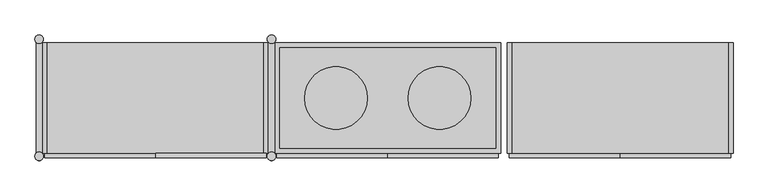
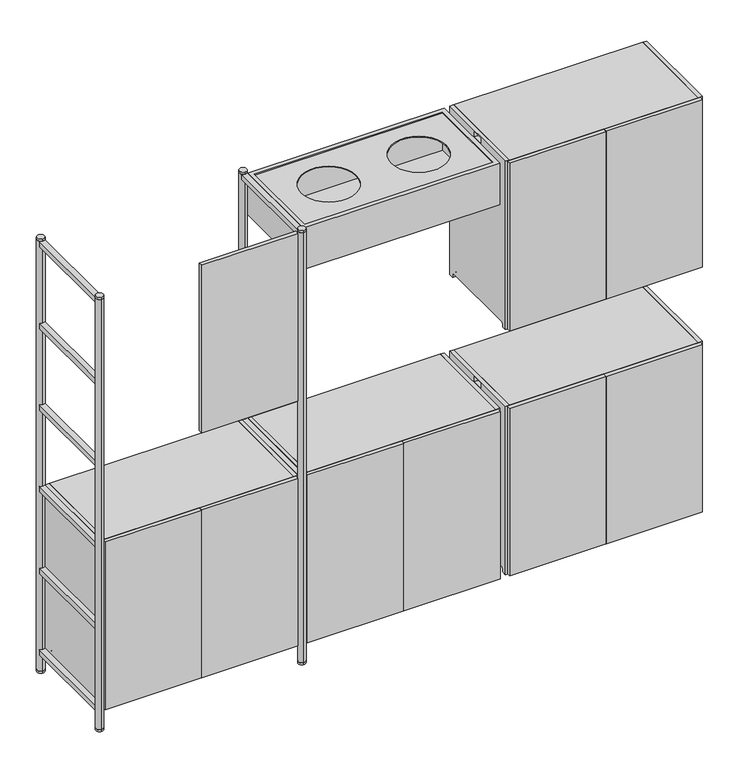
"""IFC4 building model written with IfcOpenShell, lengths in millimetres: furniture geometry, MAKR_TEMPLATE_900mmL : MAKR_TEMPLATE_900mmL."""

from ifc_helpers import new_model, si_unit, point, frame, frame_2d, origin, origin_with_axes, place, context, project, spatial, polyline, circle_curve, trimmed, segment, composite_curve, outline, extrude, source, transform, mapped, element, save
from ifc_brep_helpers import plane_surface, revolved_surface, advanced_brep


def furniture_bd537a38(model_context):
    return source(origin(), model_context, "Body", "SolidModel", [
        extrude(outline(polyline([(-1409.0, -221.4782814), (-1409.0, -239.4782814), (-1849.0, -239.4782814), (-1849.0, -221.4782814), (-1409.0, -221.4782814)])), frame((0.0, 0.0, 1276.0), z_axis=(0.0, 0.0, 1.0), x_axis=(1.0, 0.0, 0.0)), (0.0, 0.0, 1.0), 811.0),
        extrude(outline(composite_curve([segment(polyline([(-221.4782814, 904.0), (218.5217186, 904.0), (218.5217186, 89.0), (196.5217186, 89.0), (196.5217186, 106.0)]), True, "CONTINUOUS"), segment(trimmed(circle_curve(frame_2d((192.5217186, 106.0)), 4.0), [point((196.5217186, 106.0))], [point((192.5217186, 110.0))], True, "CARTESIAN"), True, "CONTINUOUS"), segment(polyline([(192.5217186, 110.0), (-195.4782814, 110.0)]), True, "CONTINUOUS"), segment(trimmed(circle_curve(frame_2d((-195.4782814, 106.0)), 4.0), [point((-195.4782814, 110.0))], [point((-199.4782814, 106.0))], True, "CARTESIAN"), True, "CONTINUOUS"), segment(polyline([(-199.4782814, 106.0), (-199.4782814, 89.0), (-221.4782814, 89.0), (-221.4782814, 904.0)]), True, "CONTINUOUS")], self_intersect=False), holes=[polyline([(-27.4782814, 899.0), (-27.4782814, 874.0), (24.5217186, 874.0), (24.5217186, 899.0), (-27.4782814, 899.0)])]), frame((-2300.0, 0.0, 0.0), z_axis=(1.0, 0.0, 0.0), x_axis=(0.0, 1.0, 0.0)), (0.0, 0.0, 1.0), 18.0),
        advanced_brep(
        [(-1418.0, 218.5217186, 107.0), (-2282.0, 218.5217186, 107.0), (-2282.0, 196.394702, 107.0), (-2276.1019215, 196.394702, 107.0), (-2276.1019215, -199.3512647, 107.0), (-2282.0, -199.3512647, 107.0), (-2282.0, -221.4782814, 107.0), (-1418.0, -221.4782814, 107.0), (-1418.0, 218.5217186, 89.0), (-1418.0, -221.4782814, 89.0), (-2282.0, -221.4782814, 89.0), (-2282.0, -199.4782814, 89.0), (-2276.1019215, -199.4782814, 89.0), (-2276.1019215, 196.5217186, 89.0), (-2282.0, 196.5217186, 89.0), (-2282.0, 218.5217186, 89.0), (-2282.0, 196.5217186, 106.0), (-2282.0, -199.4782814, 106.0), (-2276.1019215, 196.5217186, 106.0), (-2276.1019215, -199.4782814, 106.0)],
        [
            (0, 1),
            (1, 2),
            (2, 3),
            (3, 4),
            (4, 5),
            (5, 6),
            (6, 7),
            (7, 0),
            (8, 9),
            (9, 10),
            (10, 11),
            (11, 12),
            (12, 13),
            (13, 14),
            (14, 15),
            (15, 8),
            (0, 8),
            (15, 1),
            (14, 16),
            (16, 2, circle_curve(frame((-2282.0, 192.5217186, 106.0), z_axis=(1.0, 0.0, 0.0), x_axis=(0.0, 1.0, 0.0)), 4.0)),
            (10, 6),
            (5, 17, circle_curve(frame((-2282.0, -195.4782814, 106.0), z_axis=(1.0, 0.0, 0.0), x_axis=(0.0, 1.0, 0.0)), 4.0)),
            (17, 11),
            (9, 7),
            (18, 13),
            (12, 19),
            (19, 4, circle_curve(frame((-2276.1019215, -195.4782814, 106.0), z_axis=(-1.0, 0.0, 0.0), x_axis=(0.0, 1.0, 0.0)), 4.0)),
            (3, 18, circle_curve(frame((-2276.1019215, 192.5217186, 106.0), z_axis=(-1.0, 0.0, 0.0), x_axis=(0.0, 1.0, 0.0)), 4.0)),
            (19, 17),
            (18, 16),
        ],
        [
            plane_surface(frame((-2282.0, 218.5217186, 107.0), z_axis=(0.0, 0.0, 1.0), x_axis=(-1.0, 0.0, 0.0))),
            plane_surface(frame((-2282.0, 218.5217186, 89.0), z_axis=(0.0, 0.0, -1.0), x_axis=(1.0, 0.0, 0.0))),
            plane_surface(frame((-1418.0, 218.5217186, 107.0), z_axis=(0.0, 1.0, 0.0), x_axis=(0.0, 0.0, -1.0))),
            plane_surface(frame((-2282.0, 218.5217186, 107.0), z_axis=(-1.0, 0.0, 0.0), x_axis=(0.0, 0.0, -1.0))),
            plane_surface(frame((-2282.0, -221.4782814, 107.0), z_axis=(0.0, -1.0, 0.0), x_axis=(0.0, 0.0, -1.0))),
            plane_surface(frame((-1418.0, -221.4782814, 107.0), z_axis=(1.0, 0.0, 0.0), x_axis=(0.0, 0.0, -1.0))),
            plane_surface(frame((-2276.1019215, -191.4782814, 106.0), z_axis=(-1.0, 0.0, 0.0), x_axis=(0.0, 0.0, 1.0))),
            revolved_surface(polyline([(-2276.1019215, -191.4782814, 106.0), (-2282.0, -191.4782814, 106.0)]), (-2306.0458228, -195.4782814, 106.0), (1.0, 0.0, 0.0)),
            plane_surface(frame((-2276.1019215, -199.4782814, 106.0), z_axis=(0.0, 1.0, 0.0), x_axis=(-1.0, 0.0, 0.0))),
            plane_surface(frame((-2276.1019215, 196.5217186, 89.0), z_axis=(0.0, -1.0, 0.0), x_axis=(-1.0, 0.0, 0.0))),
            revolved_surface(polyline([(-2276.1019215, 196.5217186, 106.0), (-2282.0, 196.5217186, 106.0)]), (-2306.0458228, 192.5217186, 106.0), (1.0, 0.0, 0.0)),
        ],
        [
            (0, [[1, 2, 3, 4, 5, 6, 7, 8]]),
            (1, [[9, 10, 11, 12, 13, 14, 15, 16]]),
            (2, [[-1, 17, -16, 18]]),
            (3, [[-18, -15, 19, 20, -2]]),
            (3, [[21, -6, 22, 23, -11]]),
            (4, [[-7, -21, -10, 24]]),
            (5, [[-8, -24, -9, -17]]),
            (6, [[25, -13, 26, 27, -4, 28]]),
            (7, [[-27, 29, -22, -5]]),
            (8, [[-26, -12, -23, -29]]),
            (9, [[-25, 30, -19, -14]]),
            (10, [[-28, -3, -20, -30]]),
        ],
    ),
        extrude(outline(composite_curve([segment(polyline([(-221.4782814, 904.0), (218.5217186, 904.0), (218.5217186, 89.0), (196.5217186, 89.0), (196.5217186, 106.0)]), True, "CONTINUOUS"), segment(trimmed(circle_curve(frame_2d((192.5217186, 106.0)), 4.0), [point((196.5217186, 106.0))], [point((192.5217186, 110.0))], True, "CARTESIAN"), True, "CONTINUOUS"), segment(polyline([(192.5217186, 110.0), (-195.4782814, 110.0)]), True, "CONTINUOUS"), segment(trimmed(circle_curve(frame_2d((-195.4782814, 106.0)), 4.0), [point((-195.4782814, 110.0))], [point((-199.4782814, 106.0))], True, "CARTESIAN"), True, "CONTINUOUS"), segment(polyline([(-199.4782814, 106.0), (-199.4782814, 89.0), (-221.4782814, 89.0), (-221.4782814, 904.0)]), True, "CONTINUOUS")], self_intersect=False), holes=[polyline([(-27.4782814, 899.0), (-27.4782814, 874.0), (24.5217186, 874.0), (24.5217186, 899.0), (-27.4782814, 899.0)])]), frame((-1418.0, 0.0, 0.0), z_axis=(1.0, 0.0, 0.0), x_axis=(0.0, 1.0, 0.0)), (0.0, 0.0, 1.0), 18.0),
        extrude(outline(polyline([(-1418.0, 218.5217186), (-1418.0, 200.5217186), (-2282.0, 200.5217186), (-2282.0, 218.5217186), (-1418.0, 218.5217186)])), frame((0.0, 0.0, 107.0), z_axis=(0.0, 0.0, 1.0), x_axis=(1.0, 0.0, 0.0)), (0.0, 0.0, 1.0), 779.0),
        extrude(outline(polyline([(-1418.0, 200.5217186), (-1418.0, -221.4782814), (-2282.0, -221.4782814), (-2282.0, 200.5217186), (-1418.0, 200.5217186)])), frame((0.0, 0.0, 487.5), z_axis=(0.0, 0.0, 1.0), x_axis=(1.0, 0.0, 0.0)), (0.0, 0.0, 1.0), 18.0),
        extrude(outline(polyline([(-1418.0, 218.5217186), (-1418.0, -221.4782814), (-2282.0, -221.4782814), (-2282.0, 218.5217186), (-1418.0, 218.5217186)])), frame((0.0, 0.0, 886.0), z_axis=(0.0, 0.0, 1.0), x_axis=(1.0, 0.0, 0.0)), (0.0, 0.0, 1.0), 18.0),
        extrude(outline(polyline([(-1841.0, 200.5217186), (-1841.0, -221.4782814), (-1859.0, -221.4782814), (-1859.0, 200.5217186), (-1841.0, 200.5217186)])), frame((0.0, 0.0, 107.0), z_axis=(0.0, 0.0, 1.0), x_axis=(1.0, 0.0, 0.0)), (0.0, 0.0, 1.0), 779.0),
        extrude(outline(polyline([(-1409.0, -221.4782814), (-1409.0, -239.4782814), (-1849.0, -239.4782814), (-1849.0, -221.4782814), (-1409.0, -221.4782814)])), frame((0.0, 0.0, 91.0), z_axis=(0.0, 0.0, 1.0), x_axis=(1.0, 0.0, 0.0)), (0.0, 0.0, 1.0), 811.0),
        extrude(outline(polyline([(-2291.0, -221.4782814), (-1851.0, -221.4782814), (-1851.0, -239.4782814), (-2291.0, -239.4782814), (-2291.0, -221.4782814)])), frame((0.0, 0.0, 91.0), z_axis=(0.0, 0.0, 1.0), x_axis=(1.0, 0.0, 0.0)), (0.0, 0.0, 1.0), 811.0),
        extrude(outline(composite_curve([segment(polyline([(-221.4782814, 904.0), (218.5217186, 904.0), (218.5217186, 89.0), (196.5217186, 89.0), (196.5217186, 106.0)]), True, "CONTINUOUS"), segment(trimmed(circle_curve(frame_2d((192.5217186, 106.0)), 4.0), [point((196.5217186, 106.0))], [point((192.5217186, 110.0))], True, "CARTESIAN"), True, "CONTINUOUS"), segment(polyline([(192.5217186, 110.0), (-195.4782814, 110.0)]), True, "CONTINUOUS"), segment(trimmed(circle_curve(frame_2d((-195.4782814, 106.0)), 4.0), [point((-195.4782814, 110.0))], [point((-199.4782814, 106.0))], True, "CARTESIAN"), True, "CONTINUOUS"), segment(polyline([(-199.4782814, 106.0), (-199.4782814, 89.0), (-221.4782814, 89.0), (-221.4782814, 904.0)]), True, "CONTINUOUS")], self_intersect=False), holes=[polyline([(-27.4782814, 899.0), (-27.4782814, 874.0), (24.5217186, 874.0), (24.5217186, 899.0), (-27.4782814, 899.0)])]), frame((-1375.0, 0.0, 0.0), z_axis=(1.0, 0.0, 0.0), x_axis=(0.0, 1.0, 0.0)), (0.0, 0.0, 1.0), 18.0),
        advanced_brep(
        [(-493.0, 218.5217186, 107.0), (-1357.0, 218.5217186, 107.0), (-1357.0, 196.394702, 107.0), (-1351.1019215, 196.394702, 107.0), (-1351.1019215, -199.3512647, 107.0), (-1357.0, -199.3512647, 107.0), (-1357.0, -221.4782814, 107.0), (-493.0, -221.4782814, 107.0), (-493.0, 218.5217186, 89.0), (-493.0, -221.4782814, 89.0), (-1357.0, -221.4782814, 89.0), (-1357.0, -199.4782814, 89.0), (-1351.1019215, -199.4782814, 89.0), (-1351.1019215, 196.5217186, 89.0), (-1357.0, 196.5217186, 89.0), (-1357.0, 218.5217186, 89.0), (-1357.0, 196.5217186, 106.0), (-1357.0, -199.4782814, 106.0), (-1351.1019215, 196.5217186, 106.0), (-1351.1019215, -199.4782814, 106.0)],
        [
            (0, 1),
            (1, 2),
            (2, 3),
            (3, 4),
            (4, 5),
            (5, 6),
            (6, 7),
            (7, 0),
            (8, 9),
            (9, 10),
            (10, 11),
            (11, 12),
            (12, 13),
            (13, 14),
            (14, 15),
            (15, 8),
            (0, 8),
            (15, 1),
            (14, 16),
            (16, 2, circle_curve(frame((-1357.0, 192.5217186, 106.0), z_axis=(1.0, 0.0, 0.0), x_axis=(0.0, 1.0, 0.0)), 4.0)),
            (10, 6),
            (5, 17, circle_curve(frame((-1357.0, -195.4782814, 106.0), z_axis=(1.0, 0.0, 0.0), x_axis=(0.0, 1.0, 0.0)), 4.0)),
            (17, 11),
            (9, 7),
            (18, 13),
            (12, 19),
            (19, 4, circle_curve(frame((-1351.1019215, -195.4782814, 106.0), z_axis=(-1.0, 0.0, 0.0), x_axis=(0.0, 1.0, 0.0)), 4.0)),
            (3, 18, circle_curve(frame((-1351.1019215, 192.5217186, 106.0), z_axis=(-1.0, 0.0, 0.0), x_axis=(0.0, 1.0, 0.0)), 4.0)),
            (19, 17),
            (18, 16),
        ],
        [
            plane_surface(frame((-1357.0, 218.5217186, 107.0), z_axis=(0.0, 0.0, 1.0), x_axis=(-1.0, 0.0, 0.0))),
            plane_surface(frame((-1357.0, 218.5217186, 89.0), z_axis=(0.0, 0.0, -1.0), x_axis=(1.0, 0.0, 0.0))),
            plane_surface(frame((-493.0, 218.5217186, 107.0), z_axis=(0.0, 1.0, 0.0), x_axis=(0.0, 0.0, -1.0))),
            plane_surface(frame((-1357.0, 218.5217186, 107.0), z_axis=(-1.0, 0.0, 0.0), x_axis=(0.0, 0.0, -1.0))),
            plane_surface(frame((-1357.0, -221.4782814, 107.0), z_axis=(0.0, -1.0, 0.0), x_axis=(0.0, 0.0, -1.0))),
            plane_surface(frame((-493.0, -221.4782814, 107.0), z_axis=(1.0, 0.0, 0.0), x_axis=(0.0, 0.0, -1.0))),
            plane_surface(frame((-1351.1019215, -191.4782814, 106.0), z_axis=(-1.0, 0.0, 0.0), x_axis=(0.0, 0.0, 1.0))),
            revolved_surface(polyline([(-1351.1019215, -191.4782814, 106.0), (-1357.0, -191.4782814, 106.0)]), (-1381.0458228, -195.4782814, 106.0), (1.0, 0.0, 0.0)),
            plane_surface(frame((-1351.1019215, -199.4782814, 106.0), z_axis=(0.0, 1.0, 0.0), x_axis=(-1.0, 0.0, 0.0))),
            plane_surface(frame((-1351.1019215, 196.5217186, 89.0), z_axis=(0.0, -1.0, 0.0), x_axis=(-1.0, 0.0, 0.0))),
            revolved_surface(polyline([(-1351.1019215, 196.5217186, 106.0), (-1357.0, 196.5217186, 106.0)]), (-1381.0458228, 192.5217186, 106.0), (1.0, 0.0, 0.0)),
        ],
        [
            (0, [[1, 2, 3, 4, 5, 6, 7, 8]]),
            (1, [[9, 10, 11, 12, 13, 14, 15, 16]]),
            (2, [[-1, 17, -16, 18]]),
            (3, [[-18, -15, 19, 20, -2]]),
            (3, [[21, -6, 22, 23, -11]]),
            (4, [[-7, -21, -10, 24]]),
            (5, [[-8, -24, -9, -17]]),
            (6, [[25, -13, 26, 27, -4, 28]]),
            (7, [[-27, 29, -22, -5]]),
            (8, [[-26, -12, -23, -29]]),
            (9, [[-25, 30, -19, -14]]),
            (10, [[-28, -3, -20, -30]]),
        ],
    ),
        extrude(outline(composite_curve([segment(polyline([(-221.4782814, 904.0), (218.5217186, 904.0), (218.5217186, 89.0), (196.5217186, 89.0), (196.5217186, 106.0)]), True, "CONTINUOUS"), segment(trimmed(circle_curve(frame_2d((192.5217186, 106.0)), 4.0), [point((196.5217186, 106.0))], [point((192.5217186, 110.0))], True, "CARTESIAN"), True, "CONTINUOUS"), segment(polyline([(192.5217186, 110.0), (-195.4782814, 110.0)]), True, "CONTINUOUS"), segment(trimmed(circle_curve(frame_2d((-195.4782814, 106.0)), 4.0), [point((-195.4782814, 110.0))], [point((-199.4782814, 106.0))], True, "CARTESIAN"), True, "CONTINUOUS"), segment(polyline([(-199.4782814, 106.0), (-199.4782814, 89.0), (-221.4782814, 89.0), (-221.4782814, 904.0)]), True, "CONTINUOUS")], self_intersect=False), holes=[polyline([(-27.4782814, 899.0), (-27.4782814, 874.0), (24.5217186, 874.0), (24.5217186, 899.0), (-27.4782814, 899.0)])]), frame((-493.0, 0.0, 0.0), z_axis=(1.0, 0.0, 0.0), x_axis=(0.0, 1.0, 0.0)), (0.0, 0.0, 1.0), 18.0),
        extrude(outline(polyline([(-493.0, 218.5217186), (-493.0, 200.5217186), (-1357.0, 200.5217186), (-1357.0, 218.5217186), (-493.0, 218.5217186)])), frame((0.0, 0.0, 107.0), z_axis=(0.0, 0.0, 1.0), x_axis=(1.0, 0.0, 0.0)), (0.0, 0.0, 1.0), 779.0),
        extrude(outline(polyline([(-493.0, 200.5217186), (-493.0, -221.4782814), (-1357.0, -221.4782814), (-1357.0, 200.5217186), (-493.0, 200.5217186)])), frame((0.0, 0.0, 487.5), z_axis=(0.0, 0.0, 1.0), x_axis=(1.0, 0.0, 0.0)), (0.0, 0.0, 1.0), 18.0),
        extrude(outline(polyline([(-493.0, 218.5217186), (-493.0, -221.4782814), (-1357.0, -221.4782814), (-1357.0, 218.5217186), (-493.0, 218.5217186)])), frame((0.0, 0.0, 886.0), z_axis=(0.0, 0.0, 1.0), x_axis=(1.0, 0.0, 0.0)), (0.0, 0.0, 1.0), 18.0),
        extrude(outline(polyline([(-916.0, 200.5217186), (-916.0, -221.4782814), (-934.0, -221.4782814), (-934.0, 200.5217186), (-916.0, 200.5217186)])), frame((0.0, 0.0, 107.0), z_axis=(0.0, 0.0, 1.0), x_axis=(1.0, 0.0, 0.0)), (0.0, 0.0, 1.0), 779.0),
        extrude(outline(polyline([(-484.0, -221.4782814), (-484.0, -239.4782814), (-924.0, -239.4782814), (-924.0, -221.4782814), (-484.0, -221.4782814)])), frame((0.0, 0.0, 91.0), z_axis=(0.0, 0.0, 1.0), x_axis=(1.0, 0.0, 0.0)), (0.0, 0.0, 1.0), 811.0),
        extrude(outline(polyline([(-1366.0, -221.4782814), (-926.0, -221.4782814), (-926.0, -239.4782814), (-1366.0, -239.4782814), (-1366.0, -221.4782814)])), frame((0.0, 0.0, 91.0), z_axis=(0.0, 0.0, 1.0), x_axis=(1.0, 0.0, 0.0)), (0.0, 0.0, 1.0), 811.0),
        extrude(outline(composite_curve([segment(trimmed(circle_curve(frame_2d((-2312.5, 233.0)), 17.0), [point((-2325.0, 221.4782814))], [point((-2300.0, 221.4782814))], True, "CARTESIAN"), True, "CONTINUOUS"), segment(polyline([(-2300.0, 221.4782814), (-2300.0, -221.4782814)]), True, "CONTINUOUS"), segment(trimmed(circle_curve(frame_2d((-2312.5, -233.0)), 17.0), [point((-2300.0, -221.4782814))], [point((-2325.0, -221.4782814))], True, "CARTESIAN"), True, "CONTINUOUS"), segment(polyline([(-2325.0, -221.4782814), (-2325.0, 221.4782814)]), True, "CONTINUOUS")], self_intersect=False)), frame((0.0, 0.0, 2064.0), z_axis=(0.0, 0.0, 1.0), x_axis=(1.0, 0.0, 0.0)), (0.0, 0.0, 1.0), 25.0),
        extrude(outline(composite_curve([segment(trimmed(circle_curve(frame_2d((-2312.5, 233.0)), 17.0), [point((-2325.0, 221.4782814))], [point((-2300.0, 221.4782814))], True, "CARTESIAN"), True, "CONTINUOUS"), segment(polyline([(-2300.0, 221.4782814), (-2300.0, -221.4782814)]), True, "CONTINUOUS"), segment(trimmed(circle_curve(frame_2d((-2312.5, -233.0)), 17.0), [point((-2300.0, -221.4782814))], [point((-2325.0, -221.4782814))], True, "CARTESIAN"), True, "CONTINUOUS"), segment(polyline([(-2325.0, -221.4782814), (-2325.0, 221.4782814)]), True, "CONTINUOUS")], self_intersect=False)), frame((0.0, 0.0, 1669.0), z_axis=(0.0, 0.0, 1.0), x_axis=(1.0, 0.0, 0.0)), (0.0, 0.0, 1.0), 25.0),
        extrude(outline(composite_curve([segment(trimmed(circle_curve(frame_2d((-2312.5, 233.0)), 17.0), [point((-2325.0, 221.4782814))], [point((-2300.0, 221.4782814))], True, "CARTESIAN"), True, "CONTINUOUS"), segment(polyline([(-2300.0, 221.4782814), (-2300.0, -221.4782814)]), True, "CONTINUOUS"), segment(trimmed(circle_curve(frame_2d((-2312.5, -233.0)), 17.0), [point((-2300.0, -221.4782814))], [point((-2325.0, -221.4782814))], True, "CARTESIAN"), True, "CONTINUOUS"), segment(polyline([(-2325.0, -221.4782814), (-2325.0, 221.4782814)]), True, "CONTINUOUS")], self_intersect=False)), frame((0.0, 0.0, 1274.0), z_axis=(0.0, 0.0, 1.0), x_axis=(1.0, 0.0, 0.0)), (0.0, 0.0, 1.0), 25.0),
        extrude(outline(composite_curve([segment(trimmed(circle_curve(frame_2d((-2312.5, 233.0)), 17.0), [point((-2325.0, 221.4782814))], [point((-2300.0, 221.4782814))], True, "CARTESIAN"), True, "CONTINUOUS"), segment(polyline([(-2300.0, 221.4782814), (-2300.0, -221.4782814)]), True, "CONTINUOUS"), segment(trimmed(circle_curve(frame_2d((-2312.5, -233.0)), 17.0), [point((-2300.0, -221.4782814))], [point((-2325.0, -221.4782814))], True, "CARTESIAN"), True, "CONTINUOUS"), segment(polyline([(-2325.0, -221.4782814), (-2325.0, 221.4782814)]), True, "CONTINUOUS")], self_intersect=False)), frame((0.0, 0.0, 879.0), z_axis=(0.0, 0.0, 1.0), x_axis=(1.0, 0.0, 0.0)), (0.0, 0.0, 1.0), 25.0),
        extrude(outline(composite_curve([segment(trimmed(circle_curve(frame_2d((-2312.5, 233.0)), 17.0), [point((-2325.0, 221.4782814))], [point((-2300.0, 221.4782814))], True, "CARTESIAN"), True, "CONTINUOUS"), segment(polyline([(-2300.0, 221.4782814), (-2300.0, -221.4782814)]), True, "CONTINUOUS"), segment(trimmed(circle_curve(frame_2d((-2312.5, -233.0)), 17.0), [point((-2300.0, -221.4782814))], [point((-2325.0, -221.4782814))], True, "CARTESIAN"), True, "CONTINUOUS"), segment(polyline([(-2325.0, -221.4782814), (-2325.0, 221.4782814)]), True, "CONTINUOUS")], self_intersect=False)), frame((0.0, 0.0, 484.0), z_axis=(0.0, 0.0, 1.0), x_axis=(1.0, 0.0, 0.0)), (0.0, 0.0, 1.0), 25.0),
        extrude(outline(composite_curve([segment(trimmed(circle_curve(frame_2d((-2312.5, 233.0)), 17.0), [point((-2325.0, 221.4782814))], [point((-2300.0, 221.4782814))], True, "CARTESIAN"), True, "CONTINUOUS"), segment(polyline([(-2300.0, 221.4782814), (-2300.0, -221.4782814)]), True, "CONTINUOUS"), segment(trimmed(circle_curve(frame_2d((-2312.5, -233.0)), 17.0), [point((-2300.0, -221.4782814))], [point((-2325.0, -221.4782814))], True, "CARTESIAN"), True, "CONTINUOUS"), segment(polyline([(-2325.0, -221.4782814), (-2325.0, 221.4782814)]), True, "CONTINUOUS")], self_intersect=False)), frame((0.0, 0.0, 89.0), z_axis=(0.0, 0.0, 1.0), x_axis=(1.0, 0.0, 0.0)), (0.0, 0.0, 1.0), 25.0),
        extrude(outline(composite_curve([segment(trimmed(circle_curve(frame_2d((-2312.5, -233.0)), 17.0), [point((-2312.5, -216.0))], [point((-2312.5, -250.0))], False, "CARTESIAN"), True, "CONTINUOUS"), segment(trimmed(circle_curve(frame_2d((-2312.5, -233.0)), 17.0), [point((-2312.5, -250.0))], [point((-2312.5, -216.0))], False, "CARTESIAN"), True, "CONTINUOUS")], self_intersect=False)), frame((0.0, 0.0, 2091.0), z_axis=(0.0, 0.0, 1.0), x_axis=(1.0, 0.0, 0.0)), (0.0, 0.0, 1.0), 9.0),
        extrude(outline(composite_curve([segment(trimmed(circle_curve(frame_2d((-2312.5, -233.0)), 17.0), [point((-2312.5, -216.0))], [point((-2312.5, -250.0))], False, "CARTESIAN"), True, "CONTINUOUS"), segment(trimmed(circle_curve(frame_2d((-2312.5, -233.0)), 17.0), [point((-2312.5, -250.0))], [point((-2312.5, -216.0))], False, "CARTESIAN"), True, "CONTINUOUS")], self_intersect=False)), origin_with_axes(), (0.0, 0.0, 1.0), 9.0),
        extrude(outline(composite_curve([segment(trimmed(circle_curve(frame_2d((-2312.5, -233.0)), 17.0), [point((-2312.5, -216.0))], [point((-2312.5, -250.0))], False, "CARTESIAN"), True, "CONTINUOUS"), segment(trimmed(circle_curve(frame_2d((-2312.5, -233.0)), 17.0), [point((-2312.5, -250.0))], [point((-2312.5, -216.0))], False, "CARTESIAN"), True, "CONTINUOUS")], self_intersect=False)), frame((0.0, 0.0, 9.0), z_axis=(0.0, 0.0, 1.0), x_axis=(1.0, 0.0, 0.0)), (0.0, 0.0, 1.0), 2082.0),
        extrude(outline(composite_curve([segment(trimmed(circle_curve(frame_2d((-2312.5, 233.0)), 17.0), [point((-2312.5, 216.0))], [point((-2312.5, 250.0))], False, "CARTESIAN"), True, "CONTINUOUS"), segment(trimmed(circle_curve(frame_2d((-2312.5, 233.0)), 17.0), [point((-2312.5, 250.0))], [point((-2312.5, 216.0))], False, "CARTESIAN"), True, "CONTINUOUS")], self_intersect=False)), frame((0.0, 0.0, 2091.0), z_axis=(0.0, 0.0, 1.0), x_axis=(1.0, 0.0, 0.0)), (0.0, 0.0, 1.0), 9.0),
        extrude(outline(composite_curve([segment(trimmed(circle_curve(frame_2d((-2312.5, 233.0)), 17.0), [point((-2312.5, 216.0))], [point((-2312.5, 250.0))], False, "CARTESIAN"), True, "CONTINUOUS"), segment(trimmed(circle_curve(frame_2d((-2312.5, 233.0)), 17.0), [point((-2312.5, 250.0))], [point((-2312.5, 216.0))], False, "CARTESIAN"), True, "CONTINUOUS")], self_intersect=False)), origin_with_axes(), (0.0, 0.0, 1.0), 9.0),
        extrude(outline(composite_curve([segment(trimmed(circle_curve(frame_2d((-2312.5, 233.0)), 17.0), [point((-2312.5, 216.0))], [point((-2312.5, 250.0))], False, "CARTESIAN"), True, "CONTINUOUS"), segment(trimmed(circle_curve(frame_2d((-2312.5, 233.0)), 17.0), [point((-2312.5, 250.0))], [point((-2312.5, 216.0))], False, "CARTESIAN"), True, "CONTINUOUS")], self_intersect=False)), frame((0.0, 0.0, 9.0), z_axis=(0.0, 0.0, 1.0), x_axis=(1.0, 0.0, 0.0)), (0.0, 0.0, 1.0), 2082.0),
        extrude(outline(composite_curve([segment(trimmed(circle_curve(frame_2d((-1387.5, 233.0)), 17.0), [point((-1400.0, 221.4782814))], [point((-1375.0, 221.4782814))], True, "CARTESIAN"), True, "CONTINUOUS"), segment(polyline([(-1375.0, 221.4782814), (-1375.0, -221.4782814)]), True, "CONTINUOUS"), segment(trimmed(circle_curve(frame_2d((-1387.5, -233.0)), 17.0), [point((-1375.0, -221.4782814))], [point((-1400.0, -221.4782814))], True, "CARTESIAN"), True, "CONTINUOUS"), segment(polyline([(-1400.0, -221.4782814), (-1400.0, 221.4782814)]), True, "CONTINUOUS")], self_intersect=False)), frame((0.0, 0.0, 2064.0), z_axis=(0.0, 0.0, 1.0), x_axis=(1.0, 0.0, 0.0)), (0.0, 0.0, 1.0), 25.0),
        extrude(outline(composite_curve([segment(trimmed(circle_curve(frame_2d((-1387.5, 233.0)), 17.0), [point((-1400.0, 221.4782814))], [point((-1375.0, 221.4782814))], True, "CARTESIAN"), True, "CONTINUOUS"), segment(polyline([(-1375.0, 221.4782814), (-1375.0, -221.4782814)]), True, "CONTINUOUS"), segment(trimmed(circle_curve(frame_2d((-1387.5, -233.0)), 17.0), [point((-1375.0, -221.4782814))], [point((-1400.0, -221.4782814))], True, "CARTESIAN"), True, "CONTINUOUS"), segment(polyline([(-1400.0, -221.4782814), (-1400.0, 221.4782814)]), True, "CONTINUOUS")], self_intersect=False)), frame((0.0, 0.0, 1669.0), z_axis=(0.0, 0.0, 1.0), x_axis=(1.0, 0.0, 0.0)), (0.0, 0.0, 1.0), 25.0),
        extrude(outline(composite_curve([segment(trimmed(circle_curve(frame_2d((-1387.5, 233.0)), 17.0), [point((-1400.0, 221.4782814))], [point((-1375.0, 221.4782814))], True, "CARTESIAN"), True, "CONTINUOUS"), segment(polyline([(-1375.0, 221.4782814), (-1375.0, -221.4782814)]), True, "CONTINUOUS"), segment(trimmed(circle_curve(frame_2d((-1387.5, -233.0)), 17.0), [point((-1375.0, -221.4782814))], [point((-1400.0, -221.4782814))], True, "CARTESIAN"), True, "CONTINUOUS"), segment(polyline([(-1400.0, -221.4782814), (-1400.0, 221.4782814)]), True, "CONTINUOUS")], self_intersect=False)), frame((0.0, 0.0, 1274.0), z_axis=(0.0, 0.0, 1.0), x_axis=(1.0, 0.0, 0.0)), (0.0, 0.0, 1.0), 25.0),
        extrude(outline(composite_curve([segment(trimmed(circle_curve(frame_2d((-1387.5, 233.0)), 17.0), [point((-1400.0, 221.4782814))], [point((-1375.0, 221.4782814))], True, "CARTESIAN"), True, "CONTINUOUS"), segment(polyline([(-1375.0, 221.4782814), (-1375.0, -221.4782814)]), True, "CONTINUOUS"), segment(trimmed(circle_curve(frame_2d((-1387.5, -233.0)), 17.0), [point((-1375.0, -221.4782814))], [point((-1400.0, -221.4782814))], True, "CARTESIAN"), True, "CONTINUOUS"), segment(polyline([(-1400.0, -221.4782814), (-1400.0, 221.4782814)]), True, "CONTINUOUS")], self_intersect=False)), frame((0.0, 0.0, 879.0), z_axis=(0.0, 0.0, 1.0), x_axis=(1.0, 0.0, 0.0)), (0.0, 0.0, 1.0), 25.0),
        extrude(outline(composite_curve([segment(trimmed(circle_curve(frame_2d((-1387.5, 233.0)), 17.0), [point((-1400.0, 221.4782814))], [point((-1375.0, 221.4782814))], True, "CARTESIAN"), True, "CONTINUOUS"), segment(polyline([(-1375.0, 221.4782814), (-1375.0, -221.4782814)]), True, "CONTINUOUS"), segment(trimmed(circle_curve(frame_2d((-1387.5, -233.0)), 17.0), [point((-1375.0, -221.4782814))], [point((-1400.0, -221.4782814))], True, "CARTESIAN"), True, "CONTINUOUS"), segment(polyline([(-1400.0, -221.4782814), (-1400.0, 221.4782814)]), True, "CONTINUOUS")], self_intersect=False)), frame((0.0, 0.0, 484.0), z_axis=(0.0, 0.0, 1.0), x_axis=(1.0, 0.0, 0.0)), (0.0, 0.0, 1.0), 25.0),
        extrude(outline(composite_curve([segment(trimmed(circle_curve(frame_2d((-1387.5, 233.0)), 17.0), [point((-1400.0, 221.4782814))], [point((-1375.0, 221.4782814))], True, "CARTESIAN"), True, "CONTINUOUS"), segment(polyline([(-1375.0, 221.4782814), (-1375.0, -221.4782814)]), True, "CONTINUOUS"), segment(trimmed(circle_curve(frame_2d((-1387.5, -233.0)), 17.0), [point((-1375.0, -221.4782814))], [point((-1400.0, -221.4782814))], True, "CARTESIAN"), True, "CONTINUOUS"), segment(polyline([(-1400.0, -221.4782814), (-1400.0, 221.4782814)]), True, "CONTINUOUS")], self_intersect=False)), frame((0.0, 0.0, 89.0), z_axis=(0.0, 0.0, 1.0), x_axis=(1.0, 0.0, 0.0)), (0.0, 0.0, 1.0), 25.0),
        extrude(outline(composite_curve([segment(trimmed(circle_curve(frame_2d((-1387.5, -233.0)), 17.0), [point((-1387.5, -216.0))], [point((-1387.5, -250.0))], False, "CARTESIAN"), True, "CONTINUOUS"), segment(trimmed(circle_curve(frame_2d((-1387.5, -233.0)), 17.0), [point((-1387.5, -250.0))], [point((-1387.5, -216.0))], False, "CARTESIAN"), True, "CONTINUOUS")], self_intersect=False)), frame((0.0, 0.0, 2091.0), z_axis=(0.0, 0.0, 1.0), x_axis=(1.0, 0.0, 0.0)), (0.0, 0.0, 1.0), 9.0),
        extrude(outline(composite_curve([segment(trimmed(circle_curve(frame_2d((-1387.5, -233.0)), 17.0), [point((-1387.5, -216.0))], [point((-1387.5, -250.0))], False, "CARTESIAN"), True, "CONTINUOUS"), segment(trimmed(circle_curve(frame_2d((-1387.5, -233.0)), 17.0), [point((-1387.5, -250.0))], [point((-1387.5, -216.0))], False, "CARTESIAN"), True, "CONTINUOUS")], self_intersect=False)), origin_with_axes(), (0.0, 0.0, 1.0), 9.0),
        extrude(outline(composite_curve([segment(trimmed(circle_curve(frame_2d((-1387.5, -233.0)), 17.0), [point((-1387.5, -216.0))], [point((-1387.5, -250.0))], False, "CARTESIAN"), True, "CONTINUOUS"), segment(trimmed(circle_curve(frame_2d((-1387.5, -233.0)), 17.0), [point((-1387.5, -250.0))], [point((-1387.5, -216.0))], False, "CARTESIAN"), True, "CONTINUOUS")], self_intersect=False)), frame((0.0, 0.0, 9.0), z_axis=(0.0, 0.0, 1.0), x_axis=(1.0, 0.0, 0.0)), (0.0, 0.0, 1.0), 2082.0),
        extrude(outline(composite_curve([segment(trimmed(circle_curve(frame_2d((-1387.5, 233.0)), 17.0), [point((-1387.5, 216.0))], [point((-1387.5, 250.0))], False, "CARTESIAN"), True, "CONTINUOUS"), segment(trimmed(circle_curve(frame_2d((-1387.5, 233.0)), 17.0), [point((-1387.5, 250.0))], [point((-1387.5, 216.0))], False, "CARTESIAN"), True, "CONTINUOUS")], self_intersect=False)), frame((0.0, 0.0, 2091.0), z_axis=(0.0, 0.0, 1.0), x_axis=(1.0, 0.0, 0.0)), (0.0, 0.0, 1.0), 9.0),
        extrude(outline(composite_curve([segment(trimmed(circle_curve(frame_2d((-1387.5, 233.0)), 17.0), [point((-1387.5, 216.0))], [point((-1387.5, 250.0))], False, "CARTESIAN"), True, "CONTINUOUS"), segment(trimmed(circle_curve(frame_2d((-1387.5, 233.0)), 17.0), [point((-1387.5, 250.0))], [point((-1387.5, 216.0))], False, "CARTESIAN"), True, "CONTINUOUS")], self_intersect=False)), origin_with_axes(), (0.0, 0.0, 1.0), 9.0),
        extrude(outline(composite_curve([segment(trimmed(circle_curve(frame_2d((-1387.5, 233.0)), 17.0), [point((-1387.5, 216.0))], [point((-1387.5, 250.0))], False, "CARTESIAN"), True, "CONTINUOUS"), segment(trimmed(circle_curve(frame_2d((-1387.5, 233.0)), 17.0), [point((-1387.5, 250.0))], [point((-1387.5, 216.0))], False, "CARTESIAN"), True, "CONTINUOUS")], self_intersect=False)), frame((0.0, 0.0, 9.0), z_axis=(0.0, 0.0, 1.0), x_axis=(1.0, 0.0, 0.0)), (0.0, 0.0, 1.0), 2082.0),
        extrude(outline(polyline([(-1375.0, 218.5217186), (-475.0, 218.5217186), (-475.0, -221.4782814), (-1375.0, -221.4782814), (-1375.0, 218.5217186)]), holes=[polyline([(-495.0, 198.5217186), (-1355.0, 198.5217186), (-1355.0, -201.4782814), (-495.0, -201.4782814), (-495.0, 198.5217186)])]), frame((0.0, 0.0, 1889.0), z_axis=(0.0, 0.0, 1.0), x_axis=(1.0, 0.0, 0.0)), (0.0, 0.0, 1.0), 200.0),
        extrude(outline(polyline([(-1355.0, 198.5217186), (-495.0, 198.5217186), (-495.0, -201.4782814), (-1355.0, -201.4782814), (-1355.0, 198.5217186)])), frame((0.0, 0.0, 1889.0), z_axis=(0.0, 0.0, 1.0), x_axis=(1.0, 0.0, 0.0)), (0.0, 0.0, 1.0), 15.0),
        extrude(outline(polyline([(-1355.0, 198.5217186), (-495.0, 198.5217186), (-495.0, -201.4782814), (-1355.0, -201.4782814), (-1355.0, 198.5217186)]), holes=[composite_curve([segment(trimmed(circle_curve(frame_2d((-719.0, -1.4782814)), 125.0), [point((-594.0, -1.4782814))], [point((-844.0, -1.4782814))], True, "CARTESIAN"), True, "CONTINUOUS"), segment(trimmed(circle_curve(frame_2d((-719.0, -1.4782814)), 125.0), [point((-844.0, -1.4782814))], [point((-594.0, -1.4782814))], True, "CARTESIAN"), True, "CONTINUOUS")], self_intersect=False), composite_curve([segment(trimmed(circle_curve(frame_2d((-1131.0, -1.4782814)), 125.0), [point((-1006.0, -1.4782814))], [point((-1256.0, -1.4782814))], True, "CARTESIAN"), True, "CONTINUOUS"), segment(trimmed(circle_curve(frame_2d((-1131.0, -1.4782814)), 125.0), [point((-1256.0, -1.4782814))], [point((-1006.0, -1.4782814))], True, "CARTESIAN"), True, "CONTINUOUS")], self_intersect=False)]), frame((0.0, 0.0, 2080.4363245), z_axis=(0.0, 0.0, 1.0), x_axis=(1.0, 0.0, 0.0)), (0.0, 0.0, 1.0), 3.5636755),
        extrude(outline(composite_curve([segment(polyline([(-221.4782814, 2089.0), (218.5217186, 2089.0), (218.5217186, 1274.0), (196.5217186, 1274.0), (196.5217186, 1291.0)]), True, "CONTINUOUS"), segment(trimmed(circle_curve(frame_2d((192.5217186, 1291.0)), 4.0), [point((196.5217186, 1291.0))], [point((192.5217186, 1295.0))], True, "CARTESIAN"), True, "CONTINUOUS"), segment(polyline([(192.5217186, 1295.0), (-195.4782814, 1295.0)]), True, "CONTINUOUS"), segment(trimmed(circle_curve(frame_2d((-195.4782814, 1291.0)), 4.0), [point((-195.4782814, 1295.0))], [point((-199.4782814, 1291.0))], True, "CARTESIAN"), True, "CONTINUOUS"), segment(polyline([(-199.4782814, 1291.0), (-199.4782814, 1274.0), (-221.4782814, 1274.0), (-221.4782814, 2089.0)]), True, "CONTINUOUS")], self_intersect=False), holes=[polyline([(-27.4782814, 2084.0), (-27.4782814, 2059.0), (24.5217186, 2059.0), (24.5217186, 2084.0), (-27.4782814, 2084.0)])]), frame((-450.0, 0.0, 0.0), z_axis=(1.0, 0.0, 0.0), x_axis=(0.0, 1.0, 0.0)), (0.0, 0.0, 1.0), 18.0),
        advanced_brep(
        [(432.0, 218.5217186, 1292.0), (-432.0, 218.5217186, 1292.0), (-432.0, 196.394702, 1292.0), (-426.1019215, 196.394702, 1292.0), (-426.1019215, -199.3512647, 1292.0), (-432.0, -199.3512647, 1292.0), (-432.0, -221.4782814, 1292.0), (432.0, -221.4782814, 1292.0), (432.0, 218.5217186, 1274.0), (432.0, -221.4782814, 1274.0), (-432.0, -221.4782814, 1274.0), (-432.0, -199.4782814, 1274.0), (-426.1019215, -199.4782814, 1274.0), (-426.1019215, 196.5217186, 1274.0), (-432.0, 196.5217186, 1274.0), (-432.0, 218.5217186, 1274.0), (-432.0, 196.5217186, 1291.0), (-432.0, -199.4782814, 1291.0), (-426.1019215, 196.5217186, 1291.0), (-426.1019215, -199.4782814, 1291.0)],
        [
            (0, 1),
            (1, 2),
            (2, 3),
            (3, 4),
            (4, 5),
            (5, 6),
            (6, 7),
            (7, 0),
            (8, 9),
            (9, 10),
            (10, 11),
            (11, 12),
            (12, 13),
            (13, 14),
            (14, 15),
            (15, 8),
            (0, 8),
            (15, 1),
            (14, 16),
            (16, 2, circle_curve(frame((-432.0, 192.5217186, 1291.0), z_axis=(1.0, 0.0, 0.0), x_axis=(0.0, 1.0, 0.0)), 4.0)),
            (10, 6),
            (5, 17, circle_curve(frame((-432.0, -195.4782814, 1291.0), z_axis=(1.0, 0.0, 0.0), x_axis=(0.0, 1.0, 0.0)), 4.0)),
            (17, 11),
            (9, 7),
            (18, 13),
            (12, 19),
            (19, 4, circle_curve(frame((-426.1019215, -195.4782814, 1291.0), z_axis=(-1.0, 0.0, 0.0), x_axis=(0.0, 1.0, 0.0)), 4.0)),
            (3, 18, circle_curve(frame((-426.1019215, 192.5217186, 1291.0), z_axis=(-1.0, 0.0, 0.0), x_axis=(0.0, 1.0, 0.0)), 4.0)),
            (19, 17),
            (18, 16),
        ],
        [
            plane_surface(frame((-432.0, 218.5217186, 1292.0), z_axis=(0.0, 0.0, 1.0), x_axis=(-1.0, 0.0, 0.0))),
            plane_surface(frame((-432.0, 218.5217186, 1274.0), z_axis=(0.0, 0.0, -1.0), x_axis=(1.0, 0.0, 0.0))),
            plane_surface(frame((432.0, 218.5217186, 1292.0), z_axis=(0.0, 1.0, 0.0), x_axis=(0.0, 0.0, -1.0))),
            plane_surface(frame((-432.0, 218.5217186, 1292.0), z_axis=(-1.0, 0.0, 0.0), x_axis=(0.0, 0.0, -1.0))),
            plane_surface(frame((-432.0, -221.4782814, 1292.0), z_axis=(0.0, -1.0, 0.0), x_axis=(0.0, 0.0, -1.0))),
            plane_surface(frame((432.0, -221.4782814, 1292.0), z_axis=(1.0, 0.0, 0.0), x_axis=(0.0, 0.0, -1.0))),
            plane_surface(frame((-426.1019215, -191.4782814, 1291.0), z_axis=(-1.0, 0.0, 0.0), x_axis=(0.0, 0.0, 1.0))),
            revolved_surface(polyline([(-426.1019215, -191.4782814, 1291.0), (-432.0, -191.4782814, 1291.0)]), (-456.0458228, -195.4782814, 1291.0), (1.0, 0.0, 0.0)),
            plane_surface(frame((-426.1019215, -199.4782814, 1291.0), z_axis=(0.0, 1.0, 0.0), x_axis=(-1.0, 0.0, 0.0))),
            plane_surface(frame((-426.1019215, 196.5217186, 1274.0), z_axis=(0.0, -1.0, 0.0), x_axis=(-1.0, 0.0, 0.0))),
            revolved_surface(polyline([(-426.1019215, 196.5217186, 1291.0), (-432.0, 196.5217186, 1291.0)]), (-456.0458228, 192.5217186, 1291.0), (1.0, 0.0, 0.0)),
        ],
        [
            (0, [[1, 2, 3, 4, 5, 6, 7, 8]]),
            (1, [[9, 10, 11, 12, 13, 14, 15, 16]]),
            (2, [[-1, 17, -16, 18]]),
            (3, [[-18, -15, 19, 20, -2]]),
            (3, [[21, -6, 22, 23, -11]]),
            (4, [[-7, -21, -10, 24]]),
            (5, [[-8, -24, -9, -17]]),
            (6, [[25, -13, 26, 27, -4, 28]]),
            (7, [[-27, 29, -22, -5]]),
            (8, [[-26, -12, -23, -29]]),
            (9, [[-25, 30, -19, -14]]),
            (10, [[-28, -3, -20, -30]]),
        ],
    ),
        extrude(outline(composite_curve([segment(polyline([(-221.4782814, 2089.0), (218.5217186, 2089.0), (218.5217186, 1274.0), (196.5217186, 1274.0), (196.5217186, 1291.0)]), True, "CONTINUOUS"), segment(trimmed(circle_curve(frame_2d((192.5217186, 1291.0)), 4.0), [point((196.5217186, 1291.0))], [point((192.5217186, 1295.0))], True, "CARTESIAN"), True, "CONTINUOUS"), segment(polyline([(192.5217186, 1295.0), (-195.4782814, 1295.0)]), True, "CONTINUOUS"), segment(trimmed(circle_curve(frame_2d((-195.4782814, 1291.0)), 4.0), [point((-195.4782814, 1295.0))], [point((-199.4782814, 1291.0))], True, "CARTESIAN"), True, "CONTINUOUS"), segment(polyline([(-199.4782814, 1291.0), (-199.4782814, 1274.0), (-221.4782814, 1274.0), (-221.4782814, 2089.0)]), True, "CONTINUOUS")], self_intersect=False), holes=[polyline([(-27.4782814, 2084.0), (-27.4782814, 2059.0), (24.5217186, 2059.0), (24.5217186, 2084.0), (-27.4782814, 2084.0)])]), frame((432.0, 0.0, 0.0), z_axis=(1.0, 0.0, 0.0), x_axis=(0.0, 1.0, 0.0)), (0.0, 0.0, 1.0), 18.0),
        extrude(outline(polyline([(432.0, 218.5217186), (432.0, 200.5217186), (-432.0, 200.5217186), (-432.0, 218.5217186), (432.0, 218.5217186)])), frame((0.0, 0.0, 1292.0), z_axis=(0.0, 0.0, 1.0), x_axis=(1.0, 0.0, 0.0)), (0.0, 0.0, 1.0), 779.0),
        extrude(outline(polyline([(432.0, 200.5217186), (432.0, -221.4782814), (-432.0, -221.4782814), (-432.0, 200.5217186), (432.0, 200.5217186)])), frame((0.0, 0.0, 1672.5), z_axis=(0.0, 0.0, 1.0), x_axis=(1.0, 0.0, 0.0)), (0.0, 0.0, 1.0), 18.0),
        extrude(outline(polyline([(432.0, 218.5217186), (432.0, -221.4782814), (-432.0, -221.4782814), (-432.0, 218.5217186), (432.0, 218.5217186)])), frame((0.0, 0.0, 2071.0), z_axis=(0.0, 0.0, 1.0), x_axis=(1.0, 0.0, 0.0)), (0.0, 0.0, 1.0), 18.0),
        extrude(outline(polyline([(9.0, 200.5217186), (9.0, -221.4782814), (-9.0, -221.4782814), (-9.0, 200.5217186), (9.0, 200.5217186)])), frame((0.0, 0.0, 1292.0), z_axis=(0.0, 0.0, 1.0), x_axis=(1.0, 0.0, 0.0)), (0.0, 0.0, 1.0), 779.0),
        extrude(outline(polyline([(441.0, -221.4782814), (441.0, -239.4782814), (1.0, -239.4782814), (1.0, -221.4782814), (441.0, -221.4782814)])), frame((0.0, 0.0, 1276.0), z_axis=(0.0, 0.0, 1.0), x_axis=(1.0, 0.0, 0.0)), (0.0, 0.0, 1.0), 811.0),
        extrude(outline(polyline([(-441.0, -221.4782814), (-1.0, -221.4782814), (-1.0, -239.4782814), (-441.0, -239.4782814), (-441.0, -221.4782814)])), frame((0.0, 0.0, 1276.0), z_axis=(0.0, 0.0, 1.0), x_axis=(1.0, 0.0, 0.0)), (0.0, 0.0, 1.0), 811.0),
        extrude(outline(composite_curve([segment(polyline([(-221.4782814, 904.0), (218.5217186, 904.0), (218.5217186, 89.0), (196.5217186, 89.0), (196.5217186, 106.0)]), True, "CONTINUOUS"), segment(trimmed(circle_curve(frame_2d((192.5217186, 106.0)), 4.0), [point((196.5217186, 106.0))], [point((192.5217186, 110.0))], True, "CARTESIAN"), True, "CONTINUOUS"), segment(polyline([(192.5217186, 110.0), (-195.4782814, 110.0)]), True, "CONTINUOUS"), segment(trimmed(circle_curve(frame_2d((-195.4782814, 106.0)), 4.0), [point((-195.4782814, 110.0))], [point((-199.4782814, 106.0))], True, "CARTESIAN"), True, "CONTINUOUS"), segment(polyline([(-199.4782814, 106.0), (-199.4782814, 89.0), (-221.4782814, 89.0), (-221.4782814, 904.0)]), True, "CONTINUOUS")], self_intersect=False), holes=[polyline([(-27.4782814, 899.0), (-27.4782814, 874.0), (24.5217186, 874.0), (24.5217186, 899.0), (-27.4782814, 899.0)])]), frame((-450.0, 0.0, 0.0), z_axis=(1.0, 0.0, 0.0), x_axis=(0.0, 1.0, 0.0)), (0.0, 0.0, 1.0), 18.0),
        advanced_brep(
        [(432.0, 218.5217186, 107.0), (-432.0, 218.5217186, 107.0), (-432.0, 196.394702, 107.0), (-426.1019215, 196.394702, 107.0), (-426.1019215, -199.3512647, 107.0), (-432.0, -199.3512647, 107.0), (-432.0, -221.4782814, 107.0), (432.0, -221.4782814, 107.0), (432.0, 218.5217186, 89.0), (432.0, -221.4782814, 89.0), (-432.0, -221.4782814, 89.0), (-432.0, -199.4782814, 89.0), (-426.1019215, -199.4782814, 89.0), (-426.1019215, 196.5217186, 89.0), (-432.0, 196.5217186, 89.0), (-432.0, 218.5217186, 89.0), (-432.0, 196.5217186, 106.0), (-432.0, -199.4782814, 106.0), (-426.1019215, 196.5217186, 106.0), (-426.1019215, -199.4782814, 106.0)],
        [
            (0, 1),
            (1, 2),
            (2, 3),
            (3, 4),
            (4, 5),
            (5, 6),
            (6, 7),
            (7, 0),
            (8, 9),
            (9, 10),
            (10, 11),
            (11, 12),
            (12, 13),
            (13, 14),
            (14, 15),
            (15, 8),
            (0, 8),
            (15, 1),
            (14, 16),
            (16, 2, circle_curve(frame((-432.0, 192.5217186, 106.0), z_axis=(1.0, 0.0, 0.0), x_axis=(0.0, 1.0, 0.0)), 4.0)),
            (10, 6),
            (5, 17, circle_curve(frame((-432.0, -195.4782814, 106.0), z_axis=(1.0, 0.0, 0.0), x_axis=(0.0, 1.0, 0.0)), 4.0)),
            (17, 11),
            (9, 7),
            (18, 13),
            (12, 19),
            (19, 4, circle_curve(frame((-426.1019215, -195.4782814, 106.0), z_axis=(-1.0, 0.0, 0.0), x_axis=(0.0, 1.0, 0.0)), 4.0)),
            (3, 18, circle_curve(frame((-426.1019215, 192.5217186, 106.0), z_axis=(-1.0, 0.0, 0.0), x_axis=(0.0, 1.0, 0.0)), 4.0)),
            (19, 17),
            (18, 16),
        ],
        [
            plane_surface(frame((-432.0, 218.5217186, 107.0), z_axis=(0.0, 0.0, 1.0), x_axis=(-1.0, 0.0, 0.0))),
            plane_surface(frame((-432.0, 218.5217186, 89.0), z_axis=(0.0, 0.0, -1.0), x_axis=(1.0, 0.0, 0.0))),
            plane_surface(frame((432.0, 218.5217186, 107.0), z_axis=(0.0, 1.0, 0.0), x_axis=(0.0, 0.0, -1.0))),
            plane_surface(frame((-432.0, 218.5217186, 107.0), z_axis=(-1.0, 0.0, 0.0), x_axis=(0.0, 0.0, -1.0))),
            plane_surface(frame((-432.0, -221.4782814, 107.0), z_axis=(0.0, -1.0, 0.0), x_axis=(0.0, 0.0, -1.0))),
            plane_surface(frame((432.0, -221.4782814, 107.0), z_axis=(1.0, 0.0, 0.0), x_axis=(0.0, 0.0, -1.0))),
            plane_surface(frame((-426.1019215, -191.4782814, 106.0), z_axis=(-1.0, 0.0, 0.0), x_axis=(0.0, 0.0, 1.0))),
            revolved_surface(polyline([(-426.1019215, -191.4782814, 106.0), (-432.0, -191.4782814, 106.0)]), (-456.0458228, -195.4782814, 106.0), (1.0, 0.0, 0.0)),
            plane_surface(frame((-426.1019215, -199.4782814, 106.0), z_axis=(0.0, 1.0, 0.0), x_axis=(-1.0, 0.0, 0.0))),
            plane_surface(frame((-426.1019215, 196.5217186, 89.0), z_axis=(0.0, -1.0, 0.0), x_axis=(-1.0, 0.0, 0.0))),
            revolved_surface(polyline([(-426.1019215, 196.5217186, 106.0), (-432.0, 196.5217186, 106.0)]), (-456.0458228, 192.5217186, 106.0), (1.0, 0.0, 0.0)),
        ],
        [
            (0, [[1, 2, 3, 4, 5, 6, 7, 8]]),
            (1, [[9, 10, 11, 12, 13, 14, 15, 16]]),
            (2, [[-1, 17, -16, 18]]),
            (3, [[-18, -15, 19, 20, -2]]),
            (3, [[21, -6, 22, 23, -11]]),
            (4, [[-7, -21, -10, 24]]),
            (5, [[-8, -24, -9, -17]]),
            (6, [[25, -13, 26, 27, -4, 28]]),
            (7, [[-27, 29, -22, -5]]),
            (8, [[-26, -12, -23, -29]]),
            (9, [[-25, 30, -19, -14]]),
            (10, [[-28, -3, -20, -30]]),
        ],
    ),
        extrude(outline(composite_curve([segment(polyline([(-221.4782814, 904.0), (218.5217186, 904.0), (218.5217186, 89.0), (196.5217186, 89.0), (196.5217186, 106.0)]), True, "CONTINUOUS"), segment(trimmed(circle_curve(frame_2d((192.5217186, 106.0)), 4.0), [point((196.5217186, 106.0))], [point((192.5217186, 110.0))], True, "CARTESIAN"), True, "CONTINUOUS"), segment(polyline([(192.5217186, 110.0), (-195.4782814, 110.0)]), True, "CONTINUOUS"), segment(trimmed(circle_curve(frame_2d((-195.4782814, 106.0)), 4.0), [point((-195.4782814, 110.0))], [point((-199.4782814, 106.0))], True, "CARTESIAN"), True, "CONTINUOUS"), segment(polyline([(-199.4782814, 106.0), (-199.4782814, 89.0), (-221.4782814, 89.0), (-221.4782814, 904.0)]), True, "CONTINUOUS")], self_intersect=False), holes=[polyline([(-27.4782814, 899.0), (-27.4782814, 874.0), (24.5217186, 874.0), (24.5217186, 899.0), (-27.4782814, 899.0)])]), frame((432.0, 0.0, 0.0), z_axis=(1.0, 0.0, 0.0), x_axis=(0.0, 1.0, 0.0)), (0.0, 0.0, 1.0), 18.0),
        extrude(outline(polyline([(432.0, 218.5217186), (432.0, 200.5217186), (-432.0, 200.5217186), (-432.0, 218.5217186), (432.0, 218.5217186)])), frame((0.0, 0.0, 107.0), z_axis=(0.0, 0.0, 1.0), x_axis=(1.0, 0.0, 0.0)), (0.0, 0.0, 1.0), 779.0),
        extrude(outline(polyline([(432.0, 200.5217186), (432.0, -221.4782814), (-432.0, -221.4782814), (-432.0, 200.5217186), (432.0, 200.5217186)])), frame((0.0, 0.0, 487.5), z_axis=(0.0, 0.0, 1.0), x_axis=(1.0, 0.0, 0.0)), (0.0, 0.0, 1.0), 18.0),
        extrude(outline(polyline([(432.0, 218.5217186), (432.0, -221.4782814), (-432.0, -221.4782814), (-432.0, 218.5217186), (432.0, 218.5217186)])), frame((0.0, 0.0, 886.0), z_axis=(0.0, 0.0, 1.0), x_axis=(1.0, 0.0, 0.0)), (0.0, 0.0, 1.0), 18.0),
        extrude(outline(polyline([(9.0, 200.5217186), (9.0, -221.4782814), (-9.0, -221.4782814), (-9.0, 200.5217186), (9.0, 200.5217186)])), frame((0.0, 0.0, 107.0), z_axis=(0.0, 0.0, 1.0), x_axis=(1.0, 0.0, 0.0)), (0.0, 0.0, 1.0), 779.0),
        extrude(outline(polyline([(441.0, -221.4782814), (441.0, -239.4782814), (1.0, -239.4782814), (1.0, -221.4782814), (441.0, -221.4782814)])), frame((0.0, 0.0, 91.0), z_axis=(0.0, 0.0, 1.0), x_axis=(1.0, 0.0, 0.0)), (0.0, 0.0, 1.0), 811.0),
        extrude(outline(polyline([(-441.0, -221.4782814), (-1.0, -221.4782814), (-1.0, -239.4782814), (-441.0, -239.4782814), (-441.0, -221.4782814)])), frame((0.0, 0.0, 91.0), z_axis=(0.0, 0.0, 1.0), x_axis=(1.0, 0.0, 0.0)), (0.0, 0.0, 1.0), 811.0),
    ])


if __name__ == "__main__":
    model = new_model("IFC4")
    model_context = context("Model", 3, world=origin())
    ifc_project = project(units=[si_unit("LENGTHUNIT", "METRE", prefix="MILLI")], contexts=[model_context])
    site = spatial("IfcSite", under=ifc_project)
    building = spatial("IfcBuilding", under=site)
    placement = place(None, origin())
    furniture_shape = furniture_bd537a38(model_context)
    element("IfcFurniture", 1, ObjectType="MAKR_TEMPLATE_900mmL : MAKR_TEMPLATE_900mmL", at=placement, inside=building, context=model_context, shape_type="MappedRepresentation", body=[
        mapped(furniture_shape, transform((0.0, 0.0, 0.0), x_axis=(1.0, 0.0, 0.0), y_axis=(0.0, 1.0, 0.0), z_axis=(0.0, 0.0, 1.0))),
    ])
    save(model, "model.ifc")
